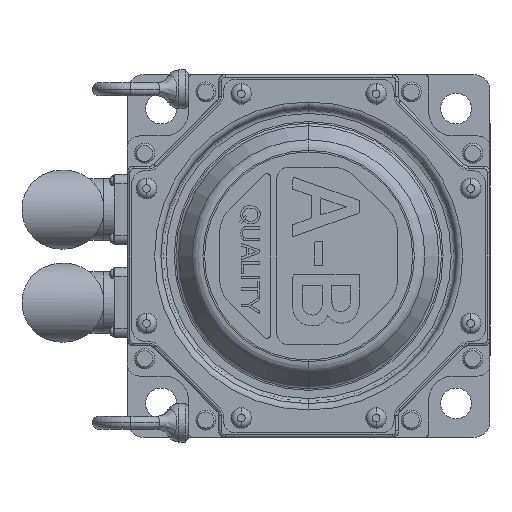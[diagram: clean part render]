
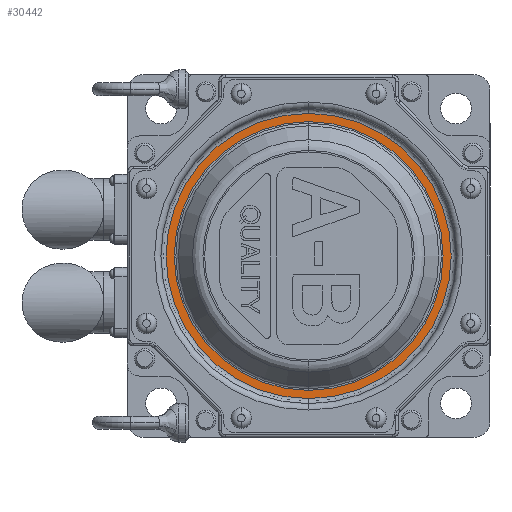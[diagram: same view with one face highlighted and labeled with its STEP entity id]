
A CAD part, left-side view. The second image highlights one B-rep face of the part: STEP entity #30442.
In plain terms, the highlighted planar face has unit normal (-1, 0, 0).
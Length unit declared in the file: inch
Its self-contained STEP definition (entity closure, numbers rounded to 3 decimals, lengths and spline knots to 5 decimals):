
#1166 = CIRCLE ( 'NONE', #28021, 2.09361 ) ;
#1170 = CIRCLE ( 'NONE', #28024, 2.221 ) ;
#1289 = CIRCLE ( 'NONE', #28338, 2.221 ) ;
#1290 = CIRCLE ( 'NONE', #28342, 2.09361 ) ;
#3668 = DIRECTION ( 'NONE',  ( -1., 0., 0. ) ) ;
#3669 = DIRECTION ( 'NONE',  ( 0., 0., -1. ) ) ;
#4930 = CARTESIAN_POINT ( 'NONE',  ( -12.488, 0., 0. ) ) ;
#4931 = DIRECTION ( 'NONE',  ( -1., 0., 0. ) ) ;
#4932 = DIRECTION ( 'NONE',  ( 0., 0., -1. ) ) ;
#4933 = CARTESIAN_POINT ( 'NONE',  ( -12.488, 0., 0. ) ) ;
#4934 = DIRECTION ( 'NONE',  ( 1., 0., 0. ) ) ;
#4935 = DIRECTION ( 'NONE',  ( 0., 0., -1. ) ) ;
#11219 = EDGE_LOOP ( 'NONE', ( #14726, #14728 ) ) ;
#11223 = EDGE_LOOP ( 'NONE', ( #14724, #14725 ) ) ;
#14250 = VERTEX_POINT ( 'NONE', #21351 ) ;
#14254 = VERTEX_POINT ( 'NONE', #21355 ) ;
#14257 = VERTEX_POINT ( 'NONE', #21358 ) ;
#14258 = VERTEX_POINT ( 'NONE', #21359 ) ;
#14724 = ORIENTED_EDGE ( 'NONE', *, *, #31672, .T. ) ;
#14725 = ORIENTED_EDGE ( 'NONE', *, *, #32018, .T. ) ;
#14726 = ORIENTED_EDGE ( 'NONE', *, *, #32019, .T. ) ;
#14728 = ORIENTED_EDGE ( 'NONE', *, *, #31668, .T. ) ;
#21351 = CARTESIAN_POINT ( 'NONE',  ( -12.488, 0., -2.221 ) ) ;
#21355 = CARTESIAN_POINT ( 'NONE',  ( -12.488, 0., 2.221 ) ) ;
#21358 = CARTESIAN_POINT ( 'NONE',  ( -12.488, 0., -2.09361 ) ) ;
#21359 = CARTESIAN_POINT ( 'NONE',  ( -12.488, 0., 2.09361 ) ) ;
#21684 = FACE_OUTER_BOUND ( 'NONE', #11223, .T. ) ;
#21689 = FACE_BOUND ( 'NONE', #11219, .T. ) ;
#21692 = AXIS2_PLACEMENT_3D ( 'NONE', #22206, #22207, #22208 ) ;
#22205 = PLANE ( 'NONE',  #21692 ) ;
#22206 = CARTESIAN_POINT ( 'NONE',  ( -12.488, 2.05249, 0. ) ) ;
#22207 = DIRECTION ( 'NONE',  ( 1., 0., 0. ) ) ;
#22208 = DIRECTION ( 'NONE',  ( 0., 0., -1. ) ) ;
#27921 = CARTESIAN_POINT ( 'NONE',  ( -12.488, 0., 0. ) ) ;
#27922 = DIRECTION ( 'NONE',  ( 1., 0., 0. ) ) ;
#27923 = DIRECTION ( 'NONE',  ( 0., 0., -1. ) ) ;
#27933 = CARTESIAN_POINT ( 'NONE',  ( -12.488, 0., 0. ) ) ;
#28021 = AXIS2_PLACEMENT_3D ( 'NONE', #27921, #27922, #27923 ) ;
#28024 = AXIS2_PLACEMENT_3D ( 'NONE', #27933, #3668, #3669 ) ;
#28338 = AXIS2_PLACEMENT_3D ( 'NONE', #4930, #4931, #4932 ) ;
#28342 = AXIS2_PLACEMENT_3D ( 'NONE', #4933, #4934, #4935 ) ;
#30442 = ADVANCED_FACE ( 'NONE', ( #21684, #21689 ), #22205, .F. ) ;
#31668 = EDGE_CURVE ( 'NONE', #14258, #14257, #1166, .T. ) ;
#31672 = EDGE_CURVE ( 'NONE', #14250, #14254, #1170, .T. ) ;
#32018 = EDGE_CURVE ( 'NONE', #14254, #14250, #1289, .T. ) ;
#32019 = EDGE_CURVE ( 'NONE', #14257, #14258, #1290, .T. ) ;
